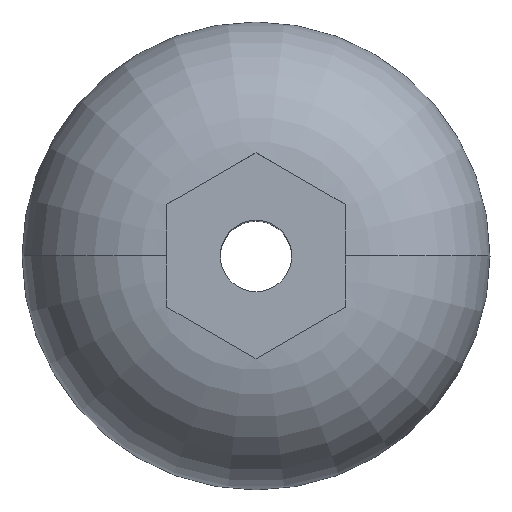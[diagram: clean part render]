
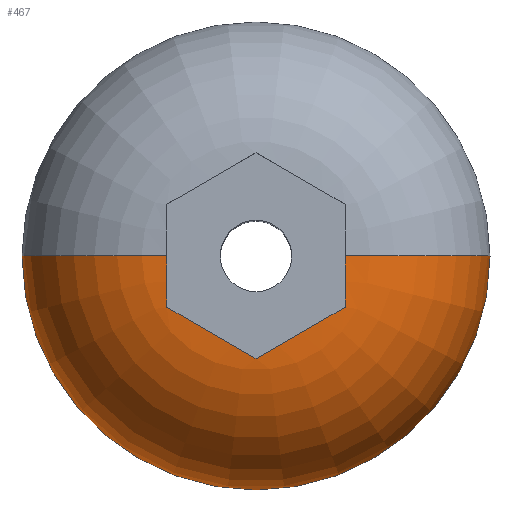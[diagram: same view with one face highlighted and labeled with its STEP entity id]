
A CAD part, top view. The second image highlights one B-rep face of the part: STEP entity #467.
In plain terms, the highlighted toroidal (fillet/blend) face has major radius 1.95 mm and minor radius 3.3 mm.
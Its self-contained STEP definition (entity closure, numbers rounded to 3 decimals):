
#30 = CARTESIAN_POINT ( 'NONE',  ( 0., -2.309, 3.28 ) ) ;
#33 = CARTESIAN_POINT ( 'NONE',  ( 0.333, -2.117, 3.301 ) ) ;
#36 = DIRECTION ( 'NONE',  ( 0., 1., 0. ) ) ;
#79 = CARTESIAN_POINT ( 'NONE',  ( 2., 0., 3.3 ) ) ;
#89 = DIRECTION ( 'NONE',  ( 0., 0., 1. ) ) ;
#111 = B_SPLINE_CURVE_WITH_KNOTS ( 'NONE', 3,
 ( #1380, #494, #376, #1125, #1516, #112 ),
 .UNSPECIFIED., .F., .F.,
 ( 4, 2, 4 ),
 ( 0., 0.001, 0.001 ),
 .UNSPECIFIED. ) ;
#112 = CARTESIAN_POINT ( 'NONE',  ( 2., -1.155, 3.28 ) ) ;
#132 = DIRECTION ( 'NONE',  ( 0., 0., -1. ) ) ;
#186 = ORIENTED_EDGE ( 'NONE', *, *, #707, .T. ) ;
#207 = ORIENTED_EDGE ( 'NONE', *, *, #292, .T. ) ;
#213 = CARTESIAN_POINT ( 'NONE',  ( -2., -0.77, 3.295 ) ) ;
#228 = DIRECTION ( 'NONE',  ( 1., 0., 0. ) ) ;
#231 = CARTESIAN_POINT ( 'NONE',  ( -2., -0.963, 3.291 ) ) ;
#242 = B_SPLINE_CURVE_WITH_KNOTS ( 'NONE', 3,
 ( #1360, #231, #213, #1117, #1350, #595 ),
 .UNSPECIFIED., .F., .F.,
 ( 4, 2, 4 ),
 ( 0.026, 0.026, 0.027 ),
 .UNSPECIFIED. ) ;
#272 = CARTESIAN_POINT ( 'NONE',  ( 1.95, 0., 0. ) ) ;
#286 = CARTESIAN_POINT ( 'NONE',  ( -1.667, -1.347, 3.301 ) ) ;
#292 = EDGE_CURVE ( 'NONE', #1304, #515, #1174, .T. ) ;
#293 = CARTESIAN_POINT ( 'NONE',  ( 1., -1.732, 3.298 ) ) ;
#299 = VERTEX_POINT ( 'NONE', #79 ) ;
#303 = DIRECTION ( 'NONE',  ( -1., 0., 0. ) ) ;
#308 = CIRCLE ( 'NONE', #450, 3.3 ) ;
#334 = EDGE_CURVE ( 'NONE', #299, #514, #111, .T. ) ;
#353 = VERTEX_POINT ( 'NONE', #1502 ) ;
#376 = CARTESIAN_POINT ( 'NONE',  ( 2., -0.385, 3.3 ) ) ;
#386 = DIRECTION ( 'NONE',  ( 0., -1., 0. ) ) ;
#450 = AXIS2_PLACEMENT_3D ( 'NONE', #272, #386, #132 ) ;
#467 = ADVANCED_FACE ( 'NONE', ( #1172 ), #755, .T. ) ;
#474 = CARTESIAN_POINT ( 'NONE',  ( 0., 0., 0. ) ) ;
#494 = CARTESIAN_POINT ( 'NONE',  ( 2., -0.193, 3.3 ) ) ;
#514 = VERTEX_POINT ( 'NONE', #613 ) ;
#515 = VERTEX_POINT ( 'NONE', #1482 ) ;
#524 = DIRECTION ( 'NONE',  ( 0., 0., 1. ) ) ;
#595 = CARTESIAN_POINT ( 'NONE',  ( -2., 0., 3.3 ) ) ;
#613 = CARTESIAN_POINT ( 'NONE',  ( 2., -1.155, 3.28 ) ) ;
#621 = EDGE_CURVE ( 'NONE', #515, #299, #308, .T. ) ;
#631 = B_SPLINE_CURVE_WITH_KNOTS ( 'NONE', 3,
 ( #1318, #817, #293, #33, #1537 ),
 .UNSPECIFIED., .F., .F.,
 ( 4, 1, 4 ),
 ( 0., 0.001, 0.002 ),
 .UNSPECIFIED. ) ;
#707 = EDGE_CURVE ( 'NONE', #514, #847, #631, .T. ) ;
#741 = EDGE_CURVE ( 'NONE', #353, #944, #242, .T. ) ;
#755 = TOROIDAL_SURFACE ( 'NONE', #774, 1.95, 3.3 ) ;
#774 = AXIS2_PLACEMENT_3D ( 'NONE', #909, #524, #1400 ) ;
#817 = CARTESIAN_POINT ( 'NONE',  ( 1.667, -1.347, 3.301 ) ) ;
#837 = AXIS2_PLACEMENT_3D ( 'NONE', #474, #89, #228 ) ;
#841 = B_SPLINE_CURVE_WITH_KNOTS ( 'NONE', 3,
 ( #30, #1527, #1303, #286, #1286 ),
 .UNSPECIFIED., .F., .F.,
 ( 4, 1, 4 ),
 ( 0., 0.001, 0.002 ),
 .UNSPECIFIED. ) ;
#845 = EDGE_CURVE ( 'NONE', #847, #353, #841, .T. ) ;
#847 = VERTEX_POINT ( 'NONE', #1540 ) ;
#909 = CARTESIAN_POINT ( 'NONE',  ( 0., 0., 0. ) ) ;
#920 = CARTESIAN_POINT ( 'NONE',  ( -2., 0., 3.3 ) ) ;
#944 = VERTEX_POINT ( 'NONE', #920 ) ;
#1001 = EDGE_CURVE ( 'NONE', #1304, #944, #1463, .T. ) ;
#1069 = ORIENTED_EDGE ( 'NONE', *, *, #845, .T. ) ;
#1117 = CARTESIAN_POINT ( 'NONE',  ( -2., -0.385, 3.3 ) ) ;
#1125 = CARTESIAN_POINT ( 'NONE',  ( 2., -0.77, 3.295 ) ) ;
#1149 = AXIS2_PLACEMENT_3D ( 'NONE', #1429, #36, #303 ) ;
#1172 = FACE_OUTER_BOUND ( 'NONE', #1534, .T. ) ;
#1174 = CIRCLE ( 'NONE', #837, 5.25 ) ;
#1181 = ORIENTED_EDGE ( 'NONE', *, *, #741, .T. ) ;
#1286 = CARTESIAN_POINT ( 'NONE',  ( -2., -1.155, 3.28 ) ) ;
#1303 = CARTESIAN_POINT ( 'NONE',  ( -1., -1.732, 3.298 ) ) ;
#1304 = VERTEX_POINT ( 'NONE', #1363 ) ;
#1318 = CARTESIAN_POINT ( 'NONE',  ( 2., -1.155, 3.28 ) ) ;
#1344 = ORIENTED_EDGE ( 'NONE', *, *, #621, .T. ) ;
#1350 = CARTESIAN_POINT ( 'NONE',  ( -2., -0.194, 3.3 ) ) ;
#1351 = ORIENTED_EDGE ( 'NONE', *, *, #334, .T. ) ;
#1360 = CARTESIAN_POINT ( 'NONE',  ( -2., -1.155, 3.28 ) ) ;
#1363 = CARTESIAN_POINT ( 'NONE',  ( -5.25, 0., 0. ) ) ;
#1380 = CARTESIAN_POINT ( 'NONE',  ( 2., 0., 3.3 ) ) ;
#1400 = DIRECTION ( 'NONE',  ( 1., 0., 0. ) ) ;
#1429 = CARTESIAN_POINT ( 'NONE',  ( -1.95, 0., 0. ) ) ;
#1463 = CIRCLE ( 'NONE', #1149, 3.3 ) ;
#1482 = CARTESIAN_POINT ( 'NONE',  ( 5.25, 0., 0. ) ) ;
#1502 = CARTESIAN_POINT ( 'NONE',  ( -2., -1.155, 3.28 ) ) ;
#1516 = CARTESIAN_POINT ( 'NONE',  ( 2., -0.963, 3.291 ) ) ;
#1518 = ORIENTED_EDGE ( 'NONE', *, *, #1001, .F. ) ;
#1527 = CARTESIAN_POINT ( 'NONE',  ( -0.333, -2.117, 3.301 ) ) ;
#1534 = EDGE_LOOP ( 'NONE', ( #1518, #207, #1344, #1351, #186, #1069, #1181 ) ) ;
#1537 = CARTESIAN_POINT ( 'NONE',  ( 0., -2.309, 3.28 ) ) ;
#1540 = CARTESIAN_POINT ( 'NONE',  ( 0., -2.309, 3.28 ) ) ;
